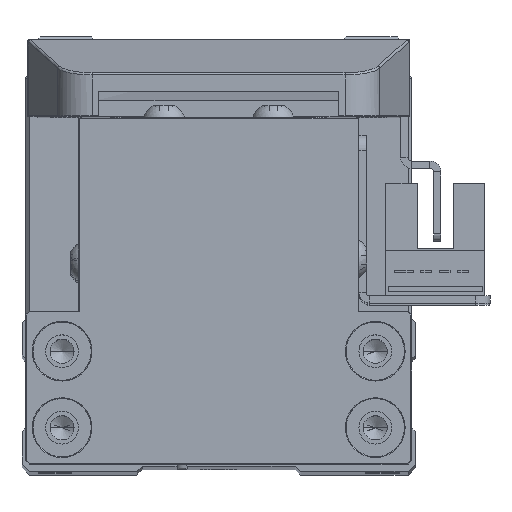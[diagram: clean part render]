
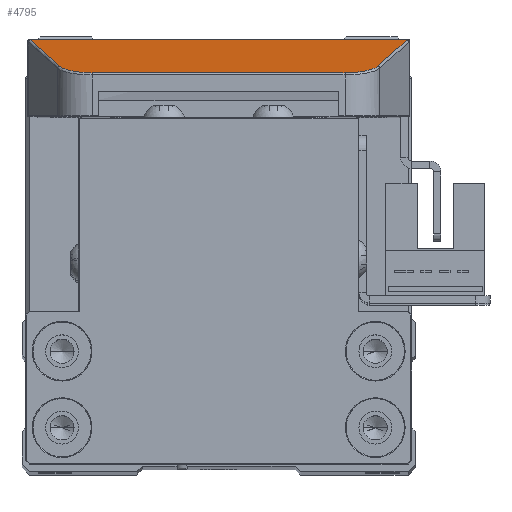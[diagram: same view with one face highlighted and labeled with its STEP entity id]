
A CAD part, top view. The second image highlights one B-rep face of the part: STEP entity #4795.
In plain terms, the highlighted planar face has unit normal (0, 0.962, 0.274) as drawn and (0, 0.274, 0.962) by its records, which use the part's own axes.
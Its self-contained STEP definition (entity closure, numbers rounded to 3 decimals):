
#159 = ORIENTED_EDGE ( 'NONE', *, *, #31369, .T. ) ;
#442 = VECTOR ( 'NONE', #17549, 1000. ) ;
#718 = PLANE ( 'NONE',  #28797 ) ;
#977 = EDGE_CURVE ( 'NONE', #18950, #16729, #26264, .T. ) ;
#1023 = CARTESIAN_POINT ( 'NONE',  ( 25.87, 9.287, -0.082 ) ) ;
#1219 = LINE ( 'NONE', #5512, #442 ) ;
#2854 =( BOUNDED_CURVE ( )  B_SPLINE_CURVE ( 3, ( #26518, #31272, #24121, #12020 ),
 .UNSPECIFIED., .F., .F. ) 
 B_SPLINE_CURVE_WITH_KNOTS ( ( 4, 4 ),
 ( 5.02, 6.283 ),
 .UNSPECIFIED. ) 
 CURVE ( )  GEOMETRIC_REPRESENTATION_ITEM ( )  RATIONAL_B_SPLINE_CURVE ( ( 1., 0.871, 0.871, 1. ) ) 
 REPRESENTATION_ITEM ( '' )  );
#2947 = EDGE_CURVE ( 'NONE', #27434, #7245, #1219, .T. ) ;
#3510 = CARTESIAN_POINT ( 'NONE',  ( -17.344, 25.282, -4.638 ) ) ;
#3724 = ORIENTED_EDGE ( 'NONE', *, *, #29288, .T. ) ;
#4795 = ADVANCED_FACE ( 'NONE', ( #28040 ), #718, .F. ) ;
#5074 = CARTESIAN_POINT ( 'NONE',  ( -25.876, 9.269, -0.077 ) ) ;
#5294 = ORIENTED_EDGE ( 'NONE', *, *, #7498, .T. ) ;
#5512 = CARTESIAN_POINT ( 'NONE',  ( 26.25, 9.269, -0.077 ) ) ;
#5600 = DIRECTION ( 'NONE',  ( 0., 0.962, -0.274 ) ) ;
#5796 = CARTESIAN_POINT ( 'NONE',  ( 25.876, 9.269, -0.077 ) ) ;
#6462 = CARTESIAN_POINT ( 'NONE',  ( 25.876, 9.269, -0.077 ) ) ;
#6546 = ORIENTED_EDGE ( 'NONE', *, *, #977, .T. ) ;
#6949 = VECTOR ( 'NONE', #25294, 1000. ) ;
#7245 = VERTEX_POINT ( 'NONE', #6462 ) ;
#7498 = EDGE_CURVE ( 'NONE', #14758, #27434, #24837, .T. ) ;
#7908 =( BOUNDED_CURVE ( )  B_SPLINE_CURVE ( 3, ( #11885, #14286, #31240, #16748 ),
 .UNSPECIFIED., .F., .F. ) 
 B_SPLINE_CURVE_WITH_KNOTS ( ( 4, 4 ),
 ( 0., 1.263 ),
 .UNSPECIFIED. ) 
 CURVE ( )  GEOMETRIC_REPRESENTATION_ITEM ( )  RATIONAL_B_SPLINE_CURVE ( ( 1., 0.871, 0.871, 1. ) ) 
 REPRESENTATION_ITEM ( '' )  );
#8724 = CARTESIAN_POINT ( 'NONE',  ( -25.876, 9.269, -0.077 ) ) ;
#9654 = EDGE_LOOP ( 'NONE', ( #28272, #14092, #159, #15998, #6546, #23158, #3724, #5294 ) ) ;
#10194 = VECTOR ( 'NONE', #19353, 1000. ) ;
#10352 = EDGE_CURVE ( 'NONE', #16729, #17115, #7908, .T. ) ;
#11405 = LINE ( 'NONE', #30594, #25064 ) ;
#11885 = CARTESIAN_POINT ( 'NONE',  ( -17.344, 25.282, -4.638 ) ) ;
#12020 = CARTESIAN_POINT ( 'NONE',  ( 17.344, 25.282, -4.638 ) ) ;
#12453 = CARTESIAN_POINT ( 'NONE',  ( -25.87, 9.287, -0.082 ) ) ;
#12790 = CARTESIAN_POINT ( 'NONE',  ( 17.344, 25.282, -4.638 ) ) ;
#13643 = DIRECTION ( 'NONE',  ( -0.293, -0.92, 0.262 ) ) ;
#14092 = ORIENTED_EDGE ( 'NONE', *, *, #15539, .T. ) ;
#14286 = CARTESIAN_POINT ( 'NONE',  ( -19.466, 25.282, -4.638 ) ) ;
#14758 = VERTEX_POINT ( 'NONE', #12453 ) ;
#15429 = EDGE_CURVE ( 'NONE', #22940, #18950, #2854, .T. ) ;
#15516 = CARTESIAN_POINT ( 'NONE',  ( 25.872, 9.281, -0.08 ) ) ;
#15539 = EDGE_CURVE ( 'NONE', #7245, #17401, #28612, .T. ) ;
#15998 = ORIENTED_EDGE ( 'NONE', *, *, #15429, .T. ) ;
#16621 = LINE ( 'NONE', #21695, #10194 ) ;
#16729 = VERTEX_POINT ( 'NONE', #30966 ) ;
#16748 = CARTESIAN_POINT ( 'NONE',  ( -21.823, 22.007, -3.705 ) ) ;
#17115 = VERTEX_POINT ( 'NONE', #27958 ) ;
#17401 = VERTEX_POINT ( 'NONE', #19387 ) ;
#17549 = DIRECTION ( 'NONE',  ( 1., 0., 0. ) ) ;
#17654 = CARTESIAN_POINT ( 'NONE',  ( -43.406, 25.5, -4.7 ) ) ;
#18950 = VERTEX_POINT ( 'NONE', #12790 ) ;
#19353 = DIRECTION ( 'NONE',  ( -0.293, 0.92, -0.262 ) ) ;
#19387 = CARTESIAN_POINT ( 'NONE',  ( 25.87, 9.287, -0.082 ) ) ;
#19555 = CARTESIAN_POINT ( 'NONE',  ( -25.87, 9.287, -0.082 ) ) ;
#20063 = DIRECTION ( 'NONE',  ( 0., -0.274, -0.962 ) ) ;
#21695 = CARTESIAN_POINT ( 'NONE',  ( 15.221, 42.754, -9.615 ) ) ;
#22940 = VERTEX_POINT ( 'NONE', #25791 ) ;
#23158 = ORIENTED_EDGE ( 'NONE', *, *, #10352, .T. ) ;
#24121 = CARTESIAN_POINT ( 'NONE',  ( 19.466, 25.282, -4.638 ) ) ;
#24837 =( BOUNDED_CURVE ( )  B_SPLINE_CURVE ( 3, ( #19555, #26758, #29159, #5074 ),
 .UNSPECIFIED., .F., .F. ) 
 B_SPLINE_CURVE_WITH_KNOTS ( ( 4, 4 ),
 ( 1.263, 1.274 ),
 .UNSPECIFIED. ) 
 CURVE ( )  GEOMETRIC_REPRESENTATION_ITEM ( )  RATIONAL_B_SPLINE_CURVE ( ( 1., 1., 1., 1. ) ) 
 REPRESENTATION_ITEM ( '' )  );
#25064 = VECTOR ( 'NONE', #13643, 1000. ) ;
#25294 = DIRECTION ( 'NONE',  ( -1., 0., 0. ) ) ;
#25791 = CARTESIAN_POINT ( 'NONE',  ( 21.823, 22.007, -3.705 ) ) ;
#26264 = LINE ( 'NONE', #3510, #6949 ) ;
#26518 = CARTESIAN_POINT ( 'NONE',  ( 21.823, 22.007, -3.705 ) ) ;
#26758 = CARTESIAN_POINT ( 'NONE',  ( -25.872, 9.281, -0.08 ) ) ;
#27434 = VERTEX_POINT ( 'NONE', #8724 ) ;
#27569 = CARTESIAN_POINT ( 'NONE',  ( 25.874, 9.275, -0.078 ) ) ;
#27958 = CARTESIAN_POINT ( 'NONE',  ( -21.823, 22.007, -3.705 ) ) ;
#28040 = FACE_OUTER_BOUND ( 'NONE', #9654, .T. ) ;
#28272 = ORIENTED_EDGE ( 'NONE', *, *, #2947, .T. ) ;
#28612 =( BOUNDED_CURVE ( )  B_SPLINE_CURVE ( 3, ( #5796, #27569, #15516, #1023 ),
 .UNSPECIFIED., .F., .F. ) 
 B_SPLINE_CURVE_WITH_KNOTS ( ( 4, 4 ),
 ( 5.009, 5.02 ),
 .UNSPECIFIED. ) 
 CURVE ( )  GEOMETRIC_REPRESENTATION_ITEM ( )  RATIONAL_B_SPLINE_CURVE ( ( 1., 1., 1., 1. ) ) 
 REPRESENTATION_ITEM ( '' )  );
#28797 = AXIS2_PLACEMENT_3D ( 'NONE', #17654, #20063, #5600 ) ;
#29159 = CARTESIAN_POINT ( 'NONE',  ( -25.874, 9.275, -0.078 ) ) ;
#29288 = EDGE_CURVE ( 'NONE', #17115, #14758, #11405, .T. ) ;
#30594 = CARTESIAN_POINT ( 'NONE',  ( -22.655, 19.393, -2.96 ) ) ;
#30966 = CARTESIAN_POINT ( 'NONE',  ( -17.344, 25.282, -4.638 ) ) ;
#31240 = CARTESIAN_POINT ( 'NONE',  ( -21.179, 24.03, -4.281 ) ) ;
#31272 = CARTESIAN_POINT ( 'NONE',  ( 21.179, 24.03, -4.281 ) ) ;
#31369 = EDGE_CURVE ( 'NONE', #17401, #22940, #16621, .T. ) ;
